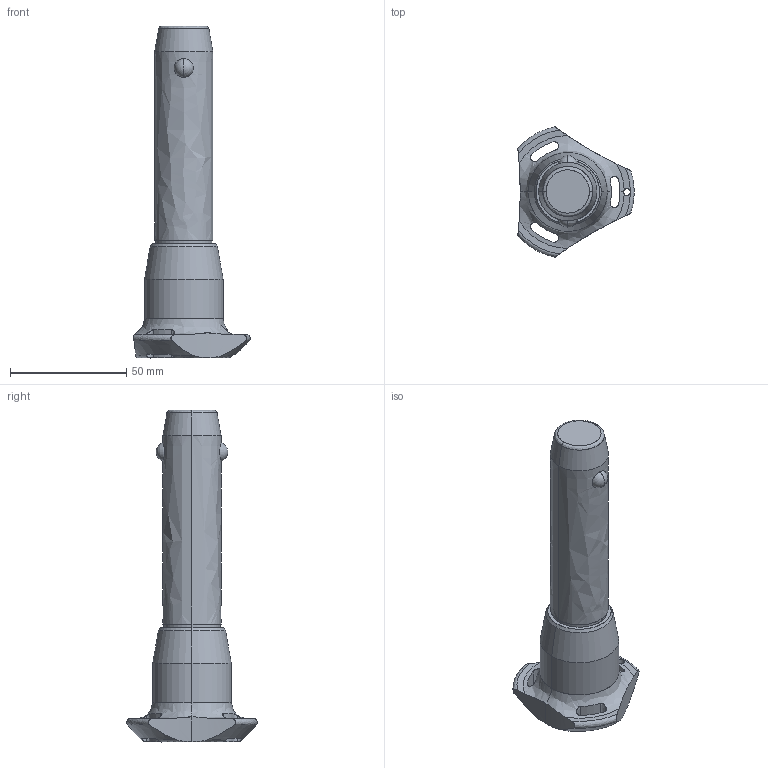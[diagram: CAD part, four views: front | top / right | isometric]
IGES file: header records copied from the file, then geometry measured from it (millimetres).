
Start section: SolidWorks IGES file using analytic representation for surfaces
Global section: file name: C:\Users\ianosborn\Desktop\QR1734_v2\QR1734_v2_20251113_IGES\QR1734.M25-070-S.igs; native system: SolidWorks 2019; preprocessor: SolidWorks 2019; author: IanOsborn; date: 251112.144512; units: millimetre
Bounding box: 50.04 x 56.02 x 142.7 mm (x, y, z)
Surface area: 16947 mm2 (no closed solid volume)
Topology: 0 solids, 0 shells, 65 faces, 1310 edges, 1306 vertices
Faces by surface type: revolution 50, bspline 15
